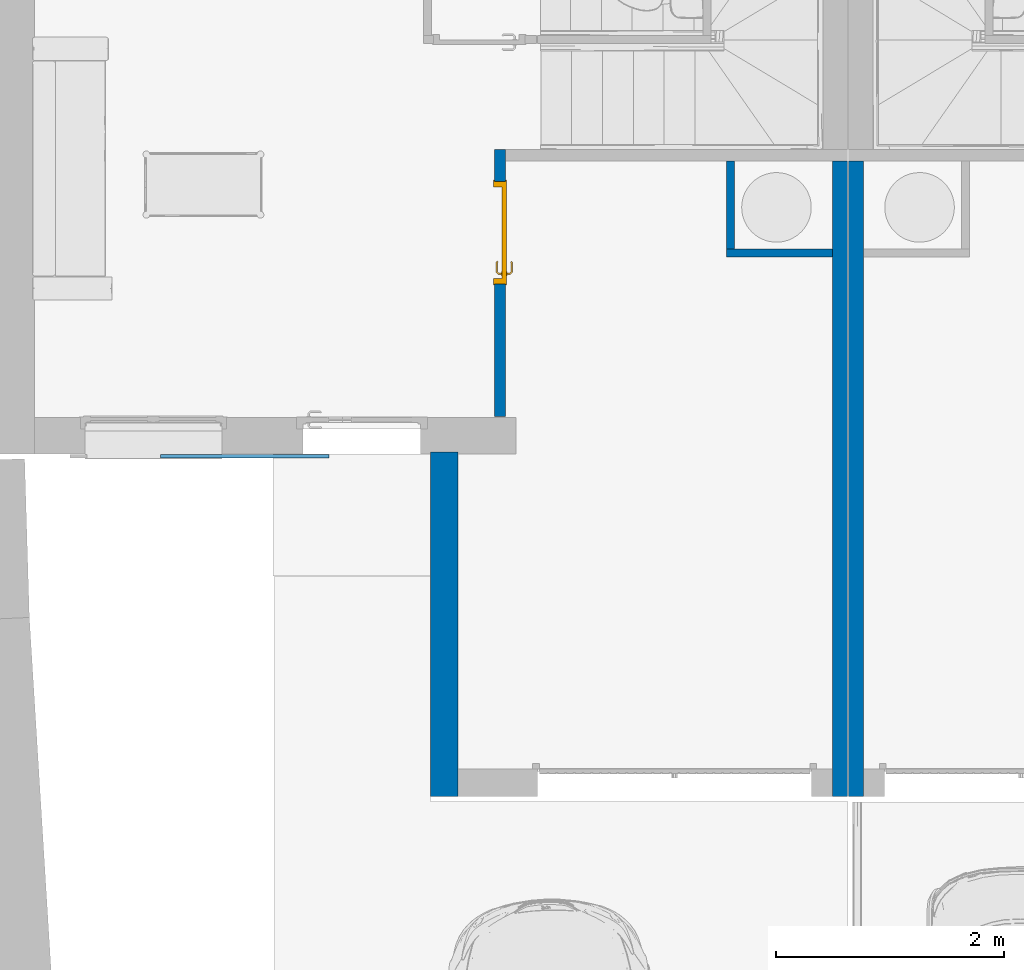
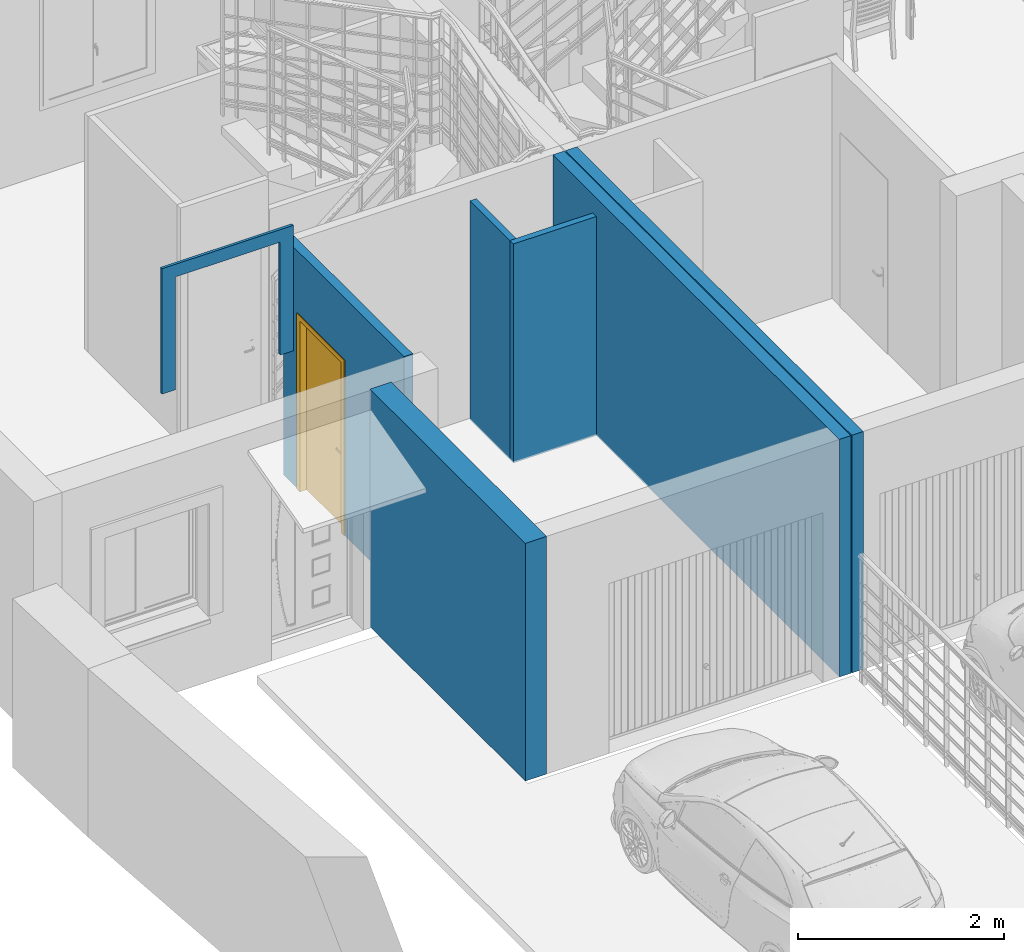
# One storey, part 5 of 33: 7 walls, 1 door, 2 openings.
"""IFC2X3 building model written with IfcOpenShell, lengths in metres."""

from ifc_helpers import new_model, entity, si_unit, converted_unit, derived_unit, direction, frame, frame_2d, origin, place, context, subcontext, project, spatial, rectangle, extrude, clip, halfspace, faceted_brep, source, transform, mapped, material, material_list, layer, layer_set, layer_usage, type_object, type_shapes, element, fill, save


model = new_model("IFC2X3")

# Units and contexts
model_context = context("Model", 3, precision=1e-05, world=origin(), true_north=direction((6.12303176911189e-17, 1.0)))
context_of_model = context(None, 3, precision=1e-05, world=origin(), true_north=direction((6.12303176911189e-17, 1.0)))
body_context = subcontext(model_context, "Body", "Model", "MODEL_VIEW")
ifc_project = project(units=[si_unit("LENGTHUNIT", "METRE"), si_unit("AREAUNIT", "SQUARE_METRE"), si_unit("VOLUMEUNIT", "CUBIC_METRE"), converted_unit("PLANEANGLEUNIT", "DEGREE", entity("IfcRatioMeasure", 0.0174532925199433), si_unit("PLANEANGLEUNIT", "RADIAN"), dimensions=[0, 0, 0, 0, 0, 0, 0]), si_unit("MASSUNIT", "GRAM", prefix="KILO"), si_unit("TIMEUNIT", "SECOND"), si_unit("FREQUENCYUNIT", "HERTZ"), si_unit("THERMODYNAMICTEMPERATUREUNIT", "DEGREE_CELSIUS"), derived_unit("THERMALTRANSMITTANCEUNIT", [(si_unit("MASSUNIT", "GRAM", prefix="KILO"), 1), (si_unit("THERMODYNAMICTEMPERATUREUNIT", "KELVIN"), -1), (si_unit("TIMEUNIT", "SECOND"), -3)]), derived_unit("VOLUMETRICFLOWRATEUNIT", [(si_unit("LENGTHUNIT", "METRE"), 3), (si_unit("TIMEUNIT", "SECOND"), -1)]), si_unit("ELECTRICCURRENTUNIT", "AMPERE"), si_unit("ELECTRICVOLTAGEUNIT", "VOLT"), si_unit("POWERUNIT", "WATT"), si_unit("FORCEUNIT", "NEWTON", prefix="KILO"), si_unit("ILLUMINANCEUNIT", "LUX"), si_unit("LUMINOUSFLUXUNIT", "LUMEN"), si_unit("LUMINOUSINTENSITYUNIT", "CANDELA"), si_unit("PRESSUREUNIT", "PASCAL")], contexts=[model_context, context_of_model])

# Site, building, storey
site_placement = place(None, origin())
site = spatial("IfcSite", under=ifc_project, at=site_placement, Name="Surface", CompositionType="ELEMENT")
building_placement = place(site_placement, origin())
building = spatial("IfcBuilding", under=site, at=building_placement, CompositionType="ELEMENT")
storey_placement = place(building_placement, origin())
storey = spatial("IfcBuildingStorey", under=building, at=storey_placement, Name="Plan des fondations  Maisons 1 et 2", CompositionType="ELEMENT", Elevation=0.0)

# Wall
ifc_material_1 = material(Name="Enduit  gris")
ifc_layer_1 = layer(ifc_material_1, 0.02)
ifc_material_2 = material(Name="Parpaing")
ifc_layer_2 = layer(ifc_material_2, 0.2)
ifc_layer_3 = layer(ifc_material_1, 0.02)
ifc_layer_set_1 = layer_set([ifc_layer_1, ifc_layer_2, ifc_layer_3], Name="Mur de base:Ext. Parpaing 2 + 20 + 2 gris")
ifc_layer_usage_1 = layer_usage(ifc_layer_set_1, "AXIS2", "POSITIVE", -0.12)
wall_type_1 = type_object("IfcWallType", Name="Mur de base:Ext. Parpaing 2 + 20 + 2 gris", PredefinedType="STANDARD", material=ifc_layer_set_1)
wall_1_placement = place(storey_placement, frame((65.2946263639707, 76.8877566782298, 0.0), z_axis=(0.0, 0.0, 1.0), x_axis=(0.0, 1.0, 0.0)))
element("IfcWallStandardCase", 1, at=wall_1_placement, inside=storey, type_object=wall_type_1, material=ifc_layer_usage_1, Name="Mur de base:Ext. Parpaing 2 + 20 + 2 gris", ObjectType="Mur de base:Ext. Parpaing 2 + 20 + 2 gris", context=body_context, shape_type="SweptSolid", body=[
    extrude(rectangle(XDim=3.02000000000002, YDim=0.239999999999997, at=frame_2d((1.51000000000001, -1.81799020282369e-15), x_axis=(-1.0, 0.0))), origin(), (0.0, 0.0, 1.0), 2.82),
])

# Wall, opening, door
ifc_material_3 = material(Name="Peinture - Blanc")
ifc_layer_4 = layer(ifc_material_3, 0.1)
ifc_layer_set_2 = layer_set([ifc_layer_4], Name="Mur de base:Int.  Platre 100 mm en blanc 2")
ifc_layer_usage_2 = layer_usage(ifc_layer_set_2, "AXIS2", "POSITIVE", -0.05)
wall_type_2 = type_object("IfcWallType", Name="Mur de base:Int.  Platre 100 mm en blanc 2", PredefinedType="STANDARD", material=ifc_layer_set_2)
wall_2_placement = place(storey_placement, frame((65.7846263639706, 80.2177566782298, 0.0), z_axis=(0.0, 0.0, 1.0), x_axis=(0.0, 1.0, 0.0)))
wall_2 = element("IfcWallStandardCase", 2, at=wall_2_placement, inside=storey, type_object=wall_type_2, material=ifc_layer_usage_2, Name="Mur de base:Int.  Platre 100 mm en blanc 2", ObjectType="Mur de base:Int.  Platre 100 mm en blanc 2", context=body_context, shape_type="SweptSolid", body=[
    extrude(rectangle(XDim=2.33999999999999, YDim=0.0999999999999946, at=frame_2d((1.16999999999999, -2.81372147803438e-15), x_axis=(-1.0, 0.0))), origin(), (0.0, 0.0, 1.0), 2.82),
])
opening_1_placement = place(wall_2_placement, frame((2.05999999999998, 0.0500000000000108, 0.0)))
opening_1 = element("IfcOpeningElement", 3, at=opening_1_placement, cuts=wall_2, Name="FR_Simple (R):83 x 204 - (80):1", ObjectType="Opening", context=body_context, shape_type="SweptSolid", body=[
    extrude(rectangle(XDim=2.075, YDim=0.9, at=frame_2d((1.0375, 0.45), x_axis=(1.0, 0.0))), frame((0.0, 0.0, 0.0), z_axis=(0.0, -1.0, 0.0), x_axis=(0.0, 0.0, 1.0)), (0.0, 0.0, 1.0), 0.1),
])
ifc_material_4 = material(Name="Poignée Porte")
ifc_material_5 = material(Name="Dormants Portes")
ifc_material_6 = material(Name="Panneaux Portes")
ifc_material_list_1 = material_list([ifc_material_4, ifc_material_5, ifc_material_6])
ifc_material_list_2 = material_list([ifc_material_4, ifc_material_5, ifc_material_6])
door_style = type_object("IfcDoorStyle", Name="83 x 204 - (80)", ConstructionType="NOTDEFINED", OperationType="SINGLE_SWING_LEFT", ParameterTakesPrecedence=False, Sizeable=False, material=ifc_material_list_2)
shared_shape = source(origin(), body_context, "Body", "Brep", [
    faceted_brep([(0.1003527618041, -0.0130000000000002, 0.766003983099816), (0.109999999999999, -0.0130000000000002, 0.770000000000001), (0.109999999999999, -0.0130000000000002, 0.980000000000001), (0.1003527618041, -0.0130000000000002, 0.983996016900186), (0.0899999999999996, -0.0130000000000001, 0.985358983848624), (0.0796472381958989, -0.0130000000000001, 0.983996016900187), (0.0699999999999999, -0.0130000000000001, 0.980000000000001), (0.0699999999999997, -0.0130000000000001, 0.770000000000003), (0.0796472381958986, -0.0130000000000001, 0.766003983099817), (0.0899999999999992, -0.0130000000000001, 0.764641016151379), (0.1003527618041, -0.00800000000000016, 0.983996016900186), (0.109999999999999, -0.00800000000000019, 0.980000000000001), (0.109999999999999, -0.00800000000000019, 0.770000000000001), (0.1003527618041, -0.00800000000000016, 0.766003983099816), (0.0899999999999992, -0.00800000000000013, 0.764641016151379), (0.0796472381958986, -0.00800000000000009, 0.766003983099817), (0.0699999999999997, -0.00800000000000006, 0.770000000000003), (0.0699999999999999, -0.00800000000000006, 0.980000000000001), (0.0796472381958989, -0.00800000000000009, 0.983996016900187), (0.0899999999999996, -0.00800000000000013, 0.985358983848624)], [[[0, 1, 2, 3, 4, 5, 6, 7, 8, 9]], [[10, 11, 12, 13, 14, 15, 16, 17, 18, 19]], [[16, 15, 8, 7]], [[8, 15, 14, 9]], [[14, 13, 0, 9]], [[13, 12, 1, 0]], [[2, 1, 12, 11]], [[11, 10, 3, 2]], [[3, 10, 19, 4]], [[19, 18, 5, 4]], [[18, 17, 6, 5]], [[7, 6, 17, 16]]]),
    faceted_brep([(0.1003527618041, 0.0319999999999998, 0.766003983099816), (0.109999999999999, 0.0319999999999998, 0.770000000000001), (0.109999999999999, 0.0319999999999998, 0.980000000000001), (0.1003527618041, 0.0319999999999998, 0.983996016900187), (0.0899999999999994, 0.0319999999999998, 0.985358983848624), (0.0796472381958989, 0.0319999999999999, 0.983996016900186), (0.0699999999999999, 0.0319999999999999, 0.980000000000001), (0.0700000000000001, 0.0319999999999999, 0.770000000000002), (0.0796472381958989, 0.0319999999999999, 0.766003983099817), (0.0899999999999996, 0.0319999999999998, 0.764641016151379), (0.1003527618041, 0.0369999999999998, 0.983996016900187), (0.109999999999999, 0.0369999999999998, 0.980000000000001), (0.11, 0.0369999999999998, 0.770000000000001), (0.1003527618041, 0.0369999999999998, 0.766003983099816), (0.0899999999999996, 0.0369999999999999, 0.764641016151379), (0.079647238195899, 0.0369999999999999, 0.766003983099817), (0.0699999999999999, 0.0369999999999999, 0.770000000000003), (0.0699999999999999, 0.0369999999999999, 0.980000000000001), (0.0796472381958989, 0.0369999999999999, 0.983996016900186), (0.0899999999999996, 0.0369999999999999, 0.985358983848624)], [[[0, 1, 2, 3, 4, 5, 6, 7, 8, 9]], [[10, 11, 12, 13, 14, 15, 16, 17, 18, 19]], [[11, 10, 3, 2]], [[3, 10, 19, 4]], [[19, 18, 5, 4]], [[18, 17, 6, 5]], [[7, 6, 17, 16]], [[16, 15, 8, 7]], [[8, 15, 14, 9]], [[14, 13, 0, 9]], [[13, 12, 1, 0]], [[2, 1, 12, 11]]]),
    faceted_brep([(0.0879747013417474, -0.0130000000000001, 0.907780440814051), (0.092025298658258, -0.0130000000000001, 0.907780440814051), (0.0960000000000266, -0.0130000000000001, 0.906999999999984), (0.0960000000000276, -0.0130000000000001, 0.893000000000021), (0.0920252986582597, -0.0130000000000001, 0.89221955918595), (0.0879747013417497, -0.0130000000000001, 0.892219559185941), (0.0839999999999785, -0.0130000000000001, 0.892999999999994), (0.0839999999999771, -0.0130000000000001, 0.90699999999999), (0.0839999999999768, -0.0406509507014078, 0.906999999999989), (0.0879747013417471, -0.0390045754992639, 0.907780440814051), (0.10402358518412, -0.0550534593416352, 0.907780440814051), (0.10570139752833, -0.0510028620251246, 0.907780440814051), (0.0920252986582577, -0.0373267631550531, 0.907780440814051), (0.19852181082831, -0.0473891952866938, 0.90778044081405), (0.195657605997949, -0.0445249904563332, 0.90778044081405), (0.189179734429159, -0.0510028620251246, 0.90778044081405), (0.19085754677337, -0.0550534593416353, 0.90778044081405), (0.096000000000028, -0.0356803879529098, 0.90699999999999), (0.0960000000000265, -0.0356803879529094, 0.893000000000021), (0.0920252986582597, -0.0373267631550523, 0.89221955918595), (0.105701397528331, -0.0510028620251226, 0.89221955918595), (0.104023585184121, -0.0550534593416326, 0.89221955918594), (0.0879747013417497, -0.0390045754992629, 0.89221955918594), (0.195657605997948, -0.044524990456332, 0.89221955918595), (0.198521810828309, -0.0473891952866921, 0.89221955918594), (0.190857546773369, -0.0550534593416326, 0.89221955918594), (0.189179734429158, -0.0510028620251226, 0.89221955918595), (0.0839999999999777, -0.0406509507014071, 0.892999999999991), (0.102377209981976, -0.0590281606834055, 0.906999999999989), (0.107347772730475, -0.0470281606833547, 0.90699999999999), (0.107347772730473, -0.0470281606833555, 0.893000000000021), (0.102377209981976, -0.0590281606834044, 0.892999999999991), (0.142307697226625, -0.0590281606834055, 0.906999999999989), (0.147440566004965, -0.053182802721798, 0.907878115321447), (0.192503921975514, -0.0590281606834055, 0.906999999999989), (0.147440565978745, -0.0470281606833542, 0.90699999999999), (0.187533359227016, -0.0470281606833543, 0.906999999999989), (0.187533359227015, -0.0470281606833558, 0.89300000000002), (0.147440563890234, -0.0470281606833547, 0.893000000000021), (0.14744056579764, -0.0531828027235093, 0.892121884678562), (0.192503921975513, -0.0590281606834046, 0.892999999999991), (0.152573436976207, -0.0590281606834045, 0.892999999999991), (0.192847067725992, -0.0417144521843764, 0.906999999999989), (0.201332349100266, -0.0501997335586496, 0.906999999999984), (0.201332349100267, -0.0501997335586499, 0.892999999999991), (0.192847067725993, -0.0417144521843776, 0.893000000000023)], [[[0, 1, 2, 3, 4, 5, 6, 7]], [[8, 9, 0, 7]], [[9, 10, 11, 12, 1, 0]], [[13, 14, 15, 16]], [[12, 17, 2, 1]], [[3, 2, 17, 18]], [[18, 19, 4, 3]], [[19, 20, 21, 22, 5, 4]], [[23, 24, 25, 26]], [[22, 27, 6, 5]], [[7, 6, 27, 8]], [[28, 10, 9, 8]], [[11, 29, 17, 12]], [[18, 17, 29, 30]], [[30, 20, 19, 18]], [[21, 31, 27, 22]], [[8, 27, 31, 28]], [[32, 33, 10]], [[33, 32, 16]], [[10, 28, 32]], [[34, 16, 32]], [[33, 35, 11]], [[11, 10, 33]], [[15, 35, 33]], [[29, 11, 35]], [[35, 15, 36]], [[15, 33, 16]], [[30, 29, 35, 36, 37, 38]], [[20, 38, 39]], [[25, 40, 41]], [[31, 21, 41]], [[41, 21, 39]], [[39, 38, 26]], [[26, 25, 39]], [[38, 20, 30]], [[37, 26, 38]], [[20, 39, 21]], [[41, 39, 25]], [[28, 31, 41, 40, 34, 32]], [[42, 14, 13, 43, 44, 24, 23, 45]], [[43, 13, 16, 34]], [[14, 42, 36, 15]], [[37, 36, 42, 45]], [[45, 23, 26, 37]], [[24, 44, 40, 25]], [[34, 40, 44, 43]]]),
    faceted_brep([(0.0879747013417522, 0.0369999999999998, 0.892219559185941), (0.0920252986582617, 0.0369999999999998, 0.892219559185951), (0.0960000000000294, 0.0369999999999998, 0.893000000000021), (0.0960000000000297, 0.0369999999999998, 0.90699999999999), (0.0920252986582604, 0.0369999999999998, 0.907780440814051), (0.0879747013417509, 0.0369999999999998, 0.907780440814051), (0.0839999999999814, 0.0369999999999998, 0.90699999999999), (0.083999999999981, 0.0369999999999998, 0.892999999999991), (0.0960000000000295, 0.0594852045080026, 0.893000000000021), (0.0960000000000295, 0.0594852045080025, 0.90699999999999), (0.0920252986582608, 0.0611315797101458, 0.907780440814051), (0.105838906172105, 0.0749451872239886, 0.907780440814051), (0.104161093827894, 0.0789957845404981, 0.907780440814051), (0.0879747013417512, 0.0628093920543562, 0.907780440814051), (0.195684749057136, 0.0684673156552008, 0.907780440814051), (0.198548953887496, 0.071331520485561, 0.907780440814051), (0.190884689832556, 0.0789957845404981, 0.907780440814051), (0.189206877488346, 0.0749451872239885, 0.907780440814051), (0.0839999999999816, 0.0644557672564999, 0.90699999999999), (0.0839999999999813, 0.0644557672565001, 0.892999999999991), (0.0879747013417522, 0.0628093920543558, 0.892219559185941), (0.104161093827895, 0.0789957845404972, 0.892219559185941), (0.105838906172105, 0.0749451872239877, 0.892219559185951), (0.0920252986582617, 0.0611315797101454, 0.892219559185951), (0.198548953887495, 0.07133152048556, 0.89221955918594), (0.195684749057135, 0.0684673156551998, 0.89221955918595), (0.189206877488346, 0.0749451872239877, 0.89221955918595), (0.190884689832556, 0.0789957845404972, 0.89221955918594), (0.107485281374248, 0.0709704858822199, 0.893000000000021), (0.107485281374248, 0.0709704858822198, 0.90699999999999), (0.102514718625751, 0.0829704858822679, 0.90699999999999), (0.102514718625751, 0.0829704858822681, 0.892999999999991), (0.147522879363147, 0.0709704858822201, 0.89300000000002), (0.187560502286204, 0.0709704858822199, 0.89300000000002), (0.187560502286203, 0.0709704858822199, 0.90699999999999), (0.147522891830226, 0.0709704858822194, 0.90699999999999), (0.147522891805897, 0.0771249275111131, 0.907878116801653), (0.1925310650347, 0.0829704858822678, 0.90699999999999), (0.152600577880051, 0.0829704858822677, 0.90699999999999), (0.1925310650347, 0.082970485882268, 0.892999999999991), (0.142445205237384, 0.0829704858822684, 0.892999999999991), (0.147522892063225, 0.0771249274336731, 0.892121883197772), (0.19287421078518, 0.0656567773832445, 0.89300000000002), (0.201359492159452, 0.0741420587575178, 0.892999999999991), (0.201359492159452, 0.0741420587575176, 0.90699999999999), (0.19287421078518, 0.0656567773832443, 0.90699999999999)], [[[0, 1, 2, 3, 4, 5, 6, 7]], [[3, 2, 8, 9]], [[9, 10, 4, 3]], [[10, 11, 12, 13, 5, 4]], [[14, 15, 16, 17]], [[13, 18, 6, 5]], [[7, 6, 18, 19]], [[19, 20, 0, 7]], [[20, 21, 22, 23, 1, 0]], [[24, 25, 26, 27]], [[23, 8, 2, 1]], [[9, 8, 28, 29]], [[29, 11, 10, 9]], [[12, 30, 18, 13]], [[19, 18, 30, 31]], [[31, 21, 20, 19]], [[22, 28, 8, 23]], [[28, 32, 33, 34, 35, 29]], [[11, 35, 36]], [[16, 37, 38]], [[30, 12, 38]], [[38, 12, 36]], [[36, 35, 17]], [[17, 16, 36]], [[35, 11, 29]], [[34, 17, 35]], [[11, 36, 12]], [[38, 36, 16]], [[31, 30, 38, 37, 39, 40]], [[40, 41, 21]], [[41, 40, 27]], [[21, 31, 40]], [[39, 27, 40]], [[41, 32, 22]], [[22, 21, 41]], [[26, 32, 41]], [[28, 22, 32]], [[32, 26, 33]], [[26, 41, 27]], [[42, 25, 24, 43, 44, 15, 14, 45]], [[34, 33, 42, 45]], [[45, 14, 17, 34]], [[15, 44, 37, 16]], [[39, 37, 44, 43]], [[43, 24, 27, 39]], [[25, 42, 33, 26]]]),
    faceted_brep([(0.0, 0.0, 0.0), (0.0, 0.10000000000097, 0.0), (-0.00999999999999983, 0.10000000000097, 0.0), (-0.00999999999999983, 0.108000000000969, 0.0), (0.0499999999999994, 0.108000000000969, 0.0), (0.0499999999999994, 0.032, 0.0), (0.0349999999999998, 0.032, 0.0), (0.0349999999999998, -0.00799999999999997, 0.0), (-0.00999999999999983, -0.00799999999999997, 0.0), (-0.00999999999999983, 0.0, 0.0), (0.0, 0.0, 2.075), (0.0, 0.10000000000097, 2.075), (0.9, 0.10000000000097, 2.075), (0.9, 0.10000000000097, 0.0), (0.91, 0.10000000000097, 0.0), (0.91, 0.10000000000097, 2.085), (-0.00999999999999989, 0.10000000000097, 2.085), (-0.00999999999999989, 0.108000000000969, 2.085), (0.91, 0.108000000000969, 2.085), (0.91, 0.108000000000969, 0.0), (0.850000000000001, 0.108000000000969, 0.0), (0.850000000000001, 0.108000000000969, 2.025), (0.0499999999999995, 0.108000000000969, 2.025), (0.0499999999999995, 0.032, 2.025), (0.850000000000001, 0.032, 2.025), (0.850000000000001, 0.032, 0.0), (0.865, 0.032, 0.0), (0.865, 0.032, 2.04), (0.0349999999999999, 0.032, 2.04), (0.0349999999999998, -0.00799999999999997, 2.04), (0.865, -0.00799999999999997, 2.04), (0.865, -0.00799999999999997, 0.0), (0.91, -0.00799999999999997, 0.0), (0.91, -0.00799999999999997, 2.085), (-0.00999999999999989, -0.00799999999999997, 2.085), (-0.00999999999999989, 0.0, 2.085), (0.91, 0.0, 2.085), (0.91, 0.0, 0.0), (0.9, 0.0, 0.0), (0.9, 0.0, 2.075)], [[[0, 1, 2, 3, 4, 5, 6, 7, 8, 9]], [[1, 0, 10, 11]], [[2, 1, 11, 12, 13, 14, 15, 16]], [[3, 2, 16, 17]], [[4, 3, 17, 18, 19, 20, 21, 22]], [[5, 4, 22, 23]], [[6, 5, 23, 24, 25, 26, 27, 28]], [[7, 6, 28, 29]], [[8, 7, 29, 30, 31, 32, 33, 34]], [[9, 8, 34, 35]], [[0, 9, 35, 36, 37, 38, 39, 10]], [[11, 10, 39, 12]], [[17, 16, 15, 18]], [[23, 22, 21, 24]], [[29, 28, 27, 30]], [[35, 34, 33, 36]], [[38, 37, 32, 31, 26, 25, 20, 19, 14, 13]], [[12, 39, 38, 13]], [[18, 15, 14, 19]], [[24, 21, 20, 25]], [[30, 27, 26, 31]], [[36, 33, 32, 37]]]),
    faceted_brep([(0.0349999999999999, -0.00799999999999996, 2.04), (0.0349999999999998, -0.00799999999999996, 0.0), (0.865, -0.00799999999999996, 0.0), (0.865, -0.00799999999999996, 2.04), (0.0349999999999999, 0.032, 2.04), (0.865, 0.032, 2.04), (0.865, 0.032, 0.0), (0.0349999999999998, 0.032, 0.0)], [[[0, 1, 2, 3]], [[4, 5, 6, 7]], [[1, 0, 4, 7]], [[2, 1, 7, 6]], [[3, 2, 6, 5]], [[0, 3, 5, 4]]]),
])
type_shapes(door_style, [shared_shape])
door_placement = place(opening_1_placement, frame((-0.899999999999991, -0.0999999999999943, 0.0)))
door = element("IfcDoor", 4, at=door_placement, inside=storey, type_object=door_style, material=ifc_material_list_1, Name="FR_Simple (R):83 x 204 - (80)", ObjectType="83 x 204 - (80)", OverallHeight=2.075, OverallWidth=0.900000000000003, context=body_context, shape_type="MappedRepresentation", body=[
    mapped(shared_shape, transform((0.0, 0.0, 0.0), scale=1.0)),
])
fill(opening_1, door)

# Walls
ifc_material_7 = material(Name="Enduit blanc cassé2")
ifc_layer_5 = layer(ifc_material_7, 0.015)
ifc_layer_6 = layer(ifc_material_2, 0.1)
ifc_layer_7 = layer(ifc_material_7, 0.015)
ifc_layer_set_3 = layer_set([ifc_layer_5, ifc_layer_6, ifc_layer_7], Name="Mur de base:Ext. Parpaing 10 + 2 x 1.5 2")
ifc_layer_usage_3 = layer_usage(ifc_layer_set_3, "AXIS2", "NEGATIVE", 0.065)
wall_type_3 = type_object("IfcWallType", Name="Mur de base:Ext. Parpaing 10 + 2 x 1.5 2", PredefinedType="STANDARD", material=ifc_layer_set_3)
wall_3_placement = place(storey_placement, frame((68.9046263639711, 82.4577566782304, 0.0), z_axis=(0.0, 0.0, 1.0), x_axis=(0.0, -1.0, 0.0)))
element("IfcWallStandardCase", 5, at=wall_3_placement, inside=storey, type_object=wall_type_3, material=ifc_layer_usage_3, Name="Mur de base:Ext. Parpaing 10 + 2 x 1.5 2", ObjectType="Mur de base:Ext. Parpaing 10 + 2 x 1.5 2", context=body_context, shape_type="SweptSolid", body=[
    extrude(rectangle(XDim=5.56999999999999, YDim=0.130000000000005, at=frame_2d((2.78499999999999, 0.0), x_axis=(-1.0, 0.0))), origin(), (0.0, 0.0, 1.0), 2.82),
])
ifc_layer_usage_4 = layer_usage(ifc_layer_set_3, "AXIS2", "POSITIVE", -0.065)
wall_4_placement = place(storey_placement, frame((68.7646263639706, 82.4577566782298, 0.0), z_axis=(0.0, 0.0, 1.0), x_axis=(0.0, -1.0, 0.0)))
element("IfcWallStandardCase", 6, at=wall_4_placement, inside=storey, type_object=wall_type_3, material=ifc_layer_usage_4, Name="Mur de base:Ext. Parpaing 10 + 2 x 1.5 2", ObjectType="Mur de base:Ext. Parpaing 10 + 2 x 1.5 2", context=body_context, shape_type="SweptSolid", body=[
    extrude(rectangle(XDim=5.57000000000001, YDim=0.130000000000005, at=frame_2d((2.785, -1.01307850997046e-15), x_axis=(-1.0, 0.0))), origin(), (0.0, 0.0, 1.0), 2.82),
])
ifc_layer_8 = layer(ifc_material_3, 0.07)
ifc_layer_set_4 = layer_set([ifc_layer_8], Name="Mur de base:Int.  Platre 70 mm en blanc")
ifc_layer_usage_5 = layer_usage(ifc_layer_set_4, "AXIS2", "POSITIVE", -0.035)
wall_type_4 = type_object("IfcWallType", Name="Mur de base:Int.  Platre 70 mm en blanc", PredefinedType="STANDARD", material=ifc_layer_set_4)
wall_5_placement = place(storey_placement, frame((68.6996263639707, 81.6477566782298, 0.0), z_axis=(0.0, 0.0, 1.0), x_axis=(-1.0, 0.0, 0.0)))
element("IfcWallStandardCase", 7, at=wall_5_placement, inside=storey, type_object=wall_type_4, material=ifc_layer_usage_5, Name="Mur de base:Int.  Platre 70 mm en blanc", ObjectType="Mur de base:Int.  Platre 70 mm en blanc", context=body_context, shape_type="SweptSolid", body=[
    extrude(rectangle(XDim=0.930000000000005, YDim=0.0699999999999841, at=frame_2d((0.465000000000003, -3.06352165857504e-15), x_axis=(-1.0, 0.0))), origin(), (0.0, 0.0, 1.0), 2.6),
])
ifc_layer_usage_6 = layer_usage(ifc_layer_set_4, "AXIS2", "POSITIVE", -0.035)
wall_6_placement = place(storey_placement, frame((67.8046263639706, 81.6827566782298, 0.0), z_axis=(0.0, 0.0, 1.0), x_axis=(0.0, 1.0, 0.0)))
element("IfcWallStandardCase", 8, at=wall_6_placement, inside=storey, type_object=wall_type_4, material=ifc_layer_usage_6, Name="Mur de base:Int.  Platre 70 mm en blanc", ObjectType="Mur de base:Int.  Platre 70 mm en blanc", context=body_context, shape_type="SweptSolid", body=[
    extrude(rectangle(XDim=0.774999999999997, YDim=0.0700000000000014, at=frame_2d((0.387499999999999, 1.78329573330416e-15), x_axis=(-1.0, 0.0))), origin(), (0.0, 0.0, 1.0), 2.6),
])

# Wall, opening
ifc_material_8 = material(Name="Enduit blanc cassé")
ifc_layer_9 = layer(ifc_material_8, 0.01)
ifc_layer_10 = layer(ifc_material_2, 0.01)
ifc_layer_11 = layer(ifc_material_8, 0.01)
ifc_layer_set_5 = layer_set([ifc_layer_9, ifc_layer_10, ifc_layer_11], Name="Mur de base:modénateurs ep 2 cm gris")
ifc_layer_usage_7 = layer_usage(ifc_layer_set_5, "AXIS2", "POSITIVE", -0.015)
wall_type_5 = type_object("IfcWallType", Name="Mur de base:modénateurs ep 2 cm gris", PredefinedType="STANDARD", material=ifc_layer_set_5)
wall_7_placement = place(storey_placement, frame((64.2847800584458, 79.8677566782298, 3.62087456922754), z_axis=(0.0, 0.0, 1.0), x_axis=(-1.0, 0.0, 0.0)))
wall_7 = element("IfcWallStandardCase", 9, at=wall_7_placement, inside=storey, type_object=wall_type_5, material=ifc_layer_usage_7, Name="Mur de base:modénateurs ep 2 cm gris", ObjectType="Mur de base:modénateurs ep 2 cm gris", context=body_context, shape_type="Clipping", body=[
    clip(extrude(rectangle(XDim=1.47499999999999, YDim=0.0299999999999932, at=frame_2d((0.737499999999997, 3.8068506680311e-15), x_axis=(-1.0, 0.0))), origin(), (0.0, 0.0, 1.0), 1.48912543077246), halfspace(frame((1.475, -0.0149999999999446, 0.0), z_axis=(0.0, 0.0, -1.0), x_axis=(0.0, 1.0, 0.0)), False)),
])
opening_2_placement = place(wall_7_placement, origin())
element("IfcOpeningElement", 10, at=opening_2_placement, cuts=wall_7, Name="Mur de base:modénateurs ep 2 cm gris", ObjectType="Opening", context=body_context, shape_type="SweptSolid", body=[
    extrude(rectangle(XDim=1.33912543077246, YDim=1.17499999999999, at=frame_2d((0.0, 2.77555756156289e-16), x_axis=(0.0, 1.0))), frame((0.737499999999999, 0.0150000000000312, 0.669562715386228), z_axis=(0.0, -1.0, 0.0), x_axis=(1.0, 0.0, 0.0)), (0.0, 0.0, 1.0), 0.03),
])

save(model, "model.ifc")
